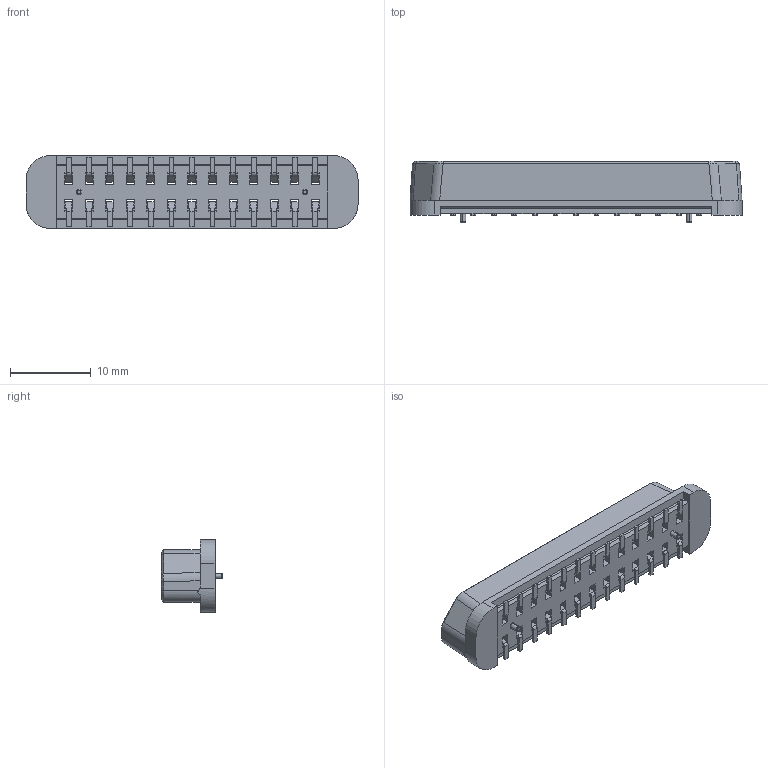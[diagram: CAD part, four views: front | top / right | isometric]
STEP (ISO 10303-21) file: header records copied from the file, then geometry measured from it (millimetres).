
FILE_DESCRIPTION (( 'STEP AP203' ), '1' );
FILE_NAME ('HC-PBB254A-1-26-F-H6.7-XX-P-04 (2.54 单槽 母座 立贴 带柱-HCTL).STEP', '2026-03-11T09:24:01', ( '' ), ( '' ), 'SwSTEP 2.0', 'SolidWorks 2025', '' );
FILE_SCHEMA (( 'CONFIG_CONTROL_DESIGN' ));
Length unit declared in the file: millimetre
Products named in the file (1): HC-PBB254A-1-26-F-H6.7-XX-P-04 (2.54 单槽 母座 立贴 带柱-HCTL)
Bounding box: 41.02 x 7.6 x 9 mm (x, y, z)
Volume: 1086.7 mm3; surface area: 2388.9 mm2
Topology: 1 solids, 1 shells, 957 faces, 3116 edges, 2034 vertices
Faces by surface type: plane 639, cylinder 304, bspline 6, torus 4, cone 4
Entity records: 34663 total; most frequent: CARTESIAN_POINT 6578, ORIENTED_EDGE 6232, DIRECTION 5594, EDGE_CURVE 3116, LINE 2474, VECTOR 2474, VERTEX_POINT 2034, AXIS2_PLACEMENT_3D 1560
